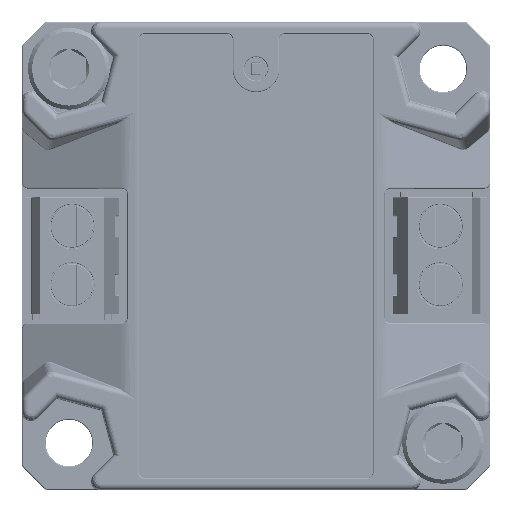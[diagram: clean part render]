
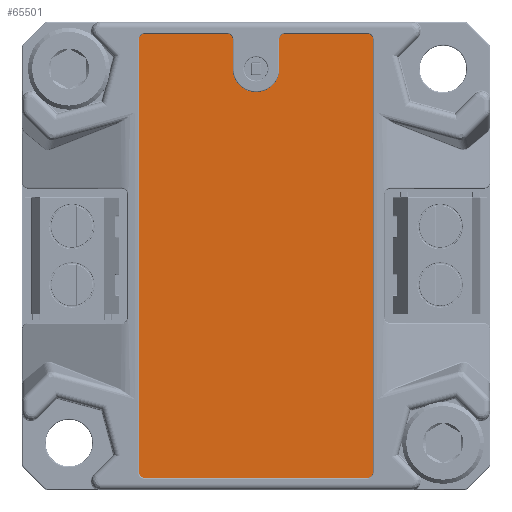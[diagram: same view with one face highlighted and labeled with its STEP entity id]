
A CAD part, top view. The second image highlights one B-rep face of the part: STEP entity #65501.
In plain terms, the highlighted planar face has unit normal (0, 0, 1).
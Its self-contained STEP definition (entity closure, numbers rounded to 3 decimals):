
#4765=PLANE('',#71476);
#7668=FACE_OUTER_BOUND('',#11920,.T.);
#11920=EDGE_LOOP('',(#55040,#55041,#55042,#55043,#55044,#55045,#55046,#55047,
#55048,#55049,#55050,#55051,#55052,#55053));
#16670=LINE('',#115028,#22120);
#16673=LINE('',#115036,#22123);
#16676=LINE('',#115044,#22126);
#17136=LINE('',#118999,#22586);
#17138=LINE('',#119005,#22588);
#17143=LINE('',#119021,#22593);
#17144=LINE('',#119023,#22594);
#22120=VECTOR('',#83920,10.);
#22123=VECTOR('',#83929,10.);
#22126=VECTOR('',#83938,10.);
#22586=VECTOR('',#86384,10.);
#22588=VECTOR('',#86392,10.);
#22593=VECTOR('',#86415,10.);
#22594=VECTOR('',#86418,10.);
#25641=CIRCLE('',#70463,0.5);
#25642=CIRCLE('',#70466,2.);
#25643=CIRCLE('',#70469,0.5);
#25644=CIRCLE('',#70472,0.5);
#26139=CIRCLE('',#71462,0.5);
#26140=CIRCLE('',#71465,0.5);
#26141=CIRCLE('',#71474,0.5);
#30602=VERTEX_POINT('',#115020);
#30603=VERTEX_POINT('',#115022);
#30604=VERTEX_POINT('',#115026);
#30605=VERTEX_POINT('',#115030);
#30606=VERTEX_POINT('',#115034);
#30607=VERTEX_POINT('',#115038);
#30608=VERTEX_POINT('',#115042);
#30609=VERTEX_POINT('',#115046);
#31250=VERTEX_POINT('',#118991);
#31251=VERTEX_POINT('',#118993);
#31252=VERTEX_POINT('',#118997);
#31253=VERTEX_POINT('',#119001);
#31254=VERTEX_POINT('',#119015);
#31255=VERTEX_POINT('',#119017);
#38286=EDGE_CURVE('',#30602,#30603,#25641,.T.);
#38289=EDGE_CURVE('',#30602,#30604,#16670,.T.);
#38291=EDGE_CURVE('',#30604,#30605,#25642,.T.);
#38293=EDGE_CURVE('',#30606,#30605,#16673,.T.);
#38295=EDGE_CURVE('',#30606,#30607,#25643,.T.);
#38297=EDGE_CURVE('',#30608,#30607,#16676,.T.);
#38299=EDGE_CURVE('',#30608,#30609,#25644,.T.);
#39408=EDGE_CURVE('',#31250,#31251,#26139,.T.);
#39411=EDGE_CURVE('',#31250,#31252,#17136,.T.);
#39413=EDGE_CURVE('',#31253,#31252,#26140,.T.);
#39414=EDGE_CURVE('',#31253,#30603,#17138,.T.);
#39418=EDGE_CURVE('',#31255,#31254,#26141,.T.);
#39420=EDGE_CURVE('',#31255,#30609,#17143,.T.);
#39421=EDGE_CURVE('',#31251,#31254,#17144,.T.);
#55040=ORIENTED_EDGE('',*,*,#39418,.T.);
#55041=ORIENTED_EDGE('',*,*,#39421,.F.);
#55042=ORIENTED_EDGE('',*,*,#39408,.F.);
#55043=ORIENTED_EDGE('',*,*,#39411,.T.);
#55044=ORIENTED_EDGE('',*,*,#39413,.F.);
#55045=ORIENTED_EDGE('',*,*,#39414,.T.);
#55046=ORIENTED_EDGE('',*,*,#38286,.F.);
#55047=ORIENTED_EDGE('',*,*,#38289,.T.);
#55048=ORIENTED_EDGE('',*,*,#38291,.T.);
#55049=ORIENTED_EDGE('',*,*,#38293,.F.);
#55050=ORIENTED_EDGE('',*,*,#38295,.T.);
#55051=ORIENTED_EDGE('',*,*,#38297,.F.);
#55052=ORIENTED_EDGE('',*,*,#38299,.T.);
#55053=ORIENTED_EDGE('',*,*,#39420,.F.);
#65501=ADVANCED_FACE('',(#7668),#4765,.T.);
#70463=AXIS2_PLACEMENT_3D('',#115023,#83914,#83915);
#70466=AXIS2_PLACEMENT_3D('',#115032,#83924,#83925);
#70469=AXIS2_PLACEMENT_3D('',#115040,#83933,#83934);
#70472=AXIS2_PLACEMENT_3D('',#115048,#83942,#83943);
#71462=AXIS2_PLACEMENT_3D('',#118994,#86378,#86379);
#71465=AXIS2_PLACEMENT_3D('',#119003,#86388,#86389);
#71474=AXIS2_PLACEMENT_3D('',#119018,#86410,#86411);
#71476=AXIS2_PLACEMENT_3D('',#119022,#86416,#86417);
#83914=DIRECTION('center_axis',(0.,0.,-1.));
#83915=DIRECTION('ref_axis',(-0.707,0.707,0.));
#83920=DIRECTION('',(0.,-1.,0.));
#83924=DIRECTION('center_axis',(0.,0.,-1.));
#83925=DIRECTION('ref_axis',(1.,0.,0.));
#83929=DIRECTION('',(0.,-1.,0.));
#83933=DIRECTION('center_axis',(0.,0.,1.));
#83934=DIRECTION('ref_axis',(0.707,0.707,0.));
#83938=DIRECTION('',(1.,0.,0.));
#83942=DIRECTION('center_axis',(0.,0.,1.));
#83943=DIRECTION('ref_axis',(-0.707,0.707,0.));
#86378=DIRECTION('center_axis',(0.,0.,-1.));
#86379=DIRECTION('ref_axis',(0.707,-0.707,0.));
#86384=DIRECTION('',(0.,1.,0.));
#86388=DIRECTION('center_axis',(0.,0.,-1.));
#86389=DIRECTION('ref_axis',(0.707,0.707,0.));
#86392=DIRECTION('',(-1.,0.,0.));
#86410=DIRECTION('center_axis',(0.,0.,1.));
#86411=DIRECTION('ref_axis',(-0.707,-0.707,0.));
#86415=DIRECTION('',(0.,1.,0.));
#86416=DIRECTION('center_axis',(0.,0.,1.));
#86417=DIRECTION('ref_axis',(-1.,0.,0.));
#86418=DIRECTION('',(-1.,0.,0.));
#115020=CARTESIAN_POINT('',(2.,18.5,5.25));
#115022=CARTESIAN_POINT('',(2.5,19.,5.25));
#115023=CARTESIAN_POINT('Origin',(2.5,18.5,5.25));
#115026=CARTESIAN_POINT('',(2.,16.,5.25));
#115028=CARTESIAN_POINT('',(2.,16.,5.25));
#115030=CARTESIAN_POINT('',(-2.,16.,5.25));
#115032=CARTESIAN_POINT('Origin',(0.,16.,5.25));
#115034=CARTESIAN_POINT('',(-2.,18.5,5.25));
#115036=CARTESIAN_POINT('',(-2.,16.,5.25));
#115038=CARTESIAN_POINT('',(-2.5,19.,5.25));
#115040=CARTESIAN_POINT('Origin',(-2.5,18.5,5.25));
#115042=CARTESIAN_POINT('',(-9.5,19.,5.25));
#115044=CARTESIAN_POINT('',(-10.,19.,5.25));
#115046=CARTESIAN_POINT('',(-10.,18.5,5.25));
#115048=CARTESIAN_POINT('Origin',(-9.5,18.5,5.25));
#118991=CARTESIAN_POINT('',(10.,-18.5,5.25));
#118993=CARTESIAN_POINT('',(9.5,-19.,5.25));
#118994=CARTESIAN_POINT('Origin',(9.5,-18.5,5.25));
#118997=CARTESIAN_POINT('',(10.,18.5,5.25));
#118999=CARTESIAN_POINT('',(10.,-19.,5.25));
#119001=CARTESIAN_POINT('',(9.5,19.,5.25));
#119003=CARTESIAN_POINT('Origin',(9.5,18.5,5.25));
#119005=CARTESIAN_POINT('',(10.,19.,5.25));
#119015=CARTESIAN_POINT('',(-9.5,-19.,5.25));
#119017=CARTESIAN_POINT('',(-10.,-18.5,5.25));
#119018=CARTESIAN_POINT('Origin',(-9.5,-18.5,5.25));
#119021=CARTESIAN_POINT('',(-10.,-19.,5.25));
#119022=CARTESIAN_POINT('Origin',(-5.,0.,5.25));
#119023=CARTESIAN_POINT('',(0.,-19.,5.25));
